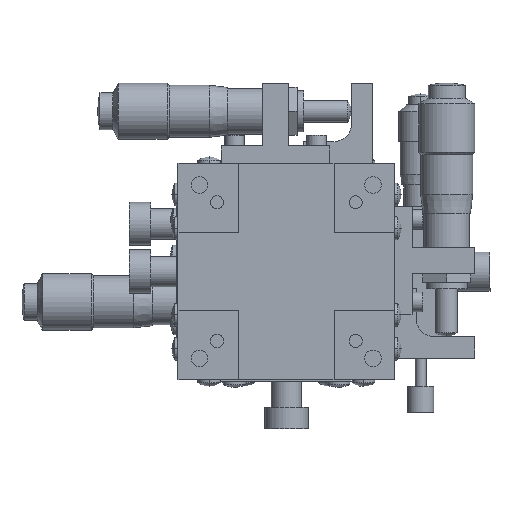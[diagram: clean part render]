
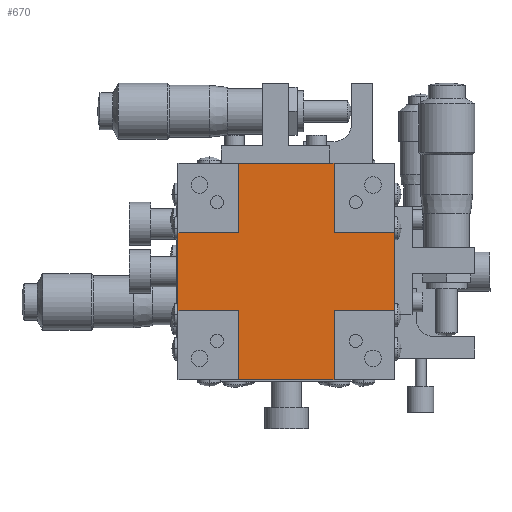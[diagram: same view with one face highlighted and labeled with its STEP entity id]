
A CAD part, front view. The second image highlights one B-rep face of the part: STEP entity #670.
In plain terms, the highlighted planar face has unit normal (0, -1, 0).
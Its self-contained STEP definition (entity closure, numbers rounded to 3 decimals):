
#670 = ADVANCED_FACE ( 'NONE', ( #12031 ), #12032, .T. ) ;
#1960 = EDGE_LOOP ( 'NONE', ( #2686, #2687, #2688, #2689, #2690, #2691, #2692, #2693, #2694, #2695, #2696, #2697 ) ) ;
#2686 = ORIENTED_EDGE ( 'NONE', *, *, #3613, .T. ) ;
#2687 = ORIENTED_EDGE ( 'NONE', *, *, #3624, .T. ) ;
#2688 = ORIENTED_EDGE ( 'NONE', *, *, #3625, .F. ) ;
#2689 = ORIENTED_EDGE ( 'NONE', *, *, #3626, .T. ) ;
#2690 = ORIENTED_EDGE ( 'NONE', *, *, #3627, .T. ) ;
#2691 = ORIENTED_EDGE ( 'NONE', *, *, #3628, .F. ) ;
#2692 = ORIENTED_EDGE ( 'NONE', *, *, #3629, .T. ) ;
#2693 = ORIENTED_EDGE ( 'NONE', *, *, #3630, .T. ) ;
#2694 = ORIENTED_EDGE ( 'NONE', *, *, #3631, .F. ) ;
#2695 = ORIENTED_EDGE ( 'NONE', *, *, #3632, .T. ) ;
#2696 = ORIENTED_EDGE ( 'NONE', *, *, #3633, .T. ) ;
#2697 = ORIENTED_EDGE ( 'NONE', *, *, #3634, .F. ) ;
#3613 = EDGE_CURVE ( 'NONE', #24292, #24067, #13884, .T. ) ;
#3624 = EDGE_CURVE ( 'NONE', #24067, #24184, #13940, .T. ) ;
#3625 = EDGE_CURVE ( 'NONE', #24069, #24184, #13962, .T. ) ;
#3626 = EDGE_CURVE ( 'NONE', #24069, #24053, #13952, .T. ) ;
#3627 = EDGE_CURVE ( 'NONE', #24053, #24127, #13974, .T. ) ;
#3628 = EDGE_CURVE ( 'NONE', #24142, #24127, #13980, .T. ) ;
#3629 = EDGE_CURVE ( 'NONE', #24142, #24031, #13950, .T. ) ;
#3630 = EDGE_CURVE ( 'NONE', #24031, #24136, #13993, .T. ) ;
#3631 = EDGE_CURVE ( 'NONE', #24161, #24136, #13999, .T. ) ;
#3632 = EDGE_CURVE ( 'NONE', #24161, #24256, #13964, .T. ) ;
#3633 = EDGE_CURVE ( 'NONE', #24256, #24050, #14012, .T. ) ;
#3634 = EDGE_CURVE ( 'NONE', #24292, #24050, #14019, .T. ) ;
#10822 = AXIS2_PLACEMENT_3D ( 'NONE', #12028, #12035, #12036 ) ;
#11073 = VECTOR ( 'NONE', #13889, 1000. ) ;
#11081 = VECTOR ( 'NONE', #13973, 1000. ) ;
#11085 = VECTOR ( 'NONE', #13960, 1000. ) ;
#11087 = VECTOR ( 'NONE', #13967, 1000. ) ;
#11088 = VECTOR ( 'NONE', #13991, 1000. ) ;
#11089 = VECTOR ( 'NONE', #13979, 1000. ) ;
#11090 = VECTOR ( 'NONE', #13986, 1000. ) ;
#11091 = VECTOR ( 'NONE', #14010, 1000. ) ;
#11092 = VECTOR ( 'NONE', #13997, 1000. ) ;
#11093 = VECTOR ( 'NONE', #14005, 1000. ) ;
#11095 = VECTOR ( 'NONE', #14017, 1000. ) ;
#11096 = VECTOR ( 'NONE', #14024, 1000. ) ;
#12028 = CARTESIAN_POINT ( 'NONE',  ( 0., -6.5, -80.141 ) ) ;
#12031 = FACE_OUTER_BOUND ( 'NONE', #1960, .T. ) ;
#12032 = PLANE ( 'NONE',  #10822 ) ;
#12035 = DIRECTION ( 'NONE',  ( 0., -1., 0. ) ) ;
#12036 = DIRECTION ( 'NONE',  ( 0., 0., -1. ) ) ;
#13884 = LINE ( 'NONE', #13887, #11073 ) ;
#13887 = CARTESIAN_POINT ( 'NONE',  ( 0., -6.5, 0. ) ) ;
#13889 = DIRECTION ( 'NONE',  ( -1., 0., 0. ) ) ;
#13940 = LINE ( 'NONE', #13942, #11085 ) ;
#13942 = CARTESIAN_POINT ( 'NONE',  ( -11., -6.5, -80.141 ) ) ;
#13950 = LINE ( 'NONE', #13988, #11088 ) ;
#13952 = LINE ( 'NONE', #13969, #11081 ) ;
#13960 = DIRECTION ( 'NONE',  ( 0., 0., -1. ) ) ;
#13962 = LINE ( 'NONE', #13965, #11087 ) ;
#13964 = LINE ( 'NONE', #14007, #11091 ) ;
#13965 = CARTESIAN_POINT ( 'NONE',  ( 0., -6.5, -16. ) ) ;
#13967 = DIRECTION ( 'NONE',  ( 1., 0., 0. ) ) ;
#13969 = CARTESIAN_POINT ( 'NONE',  ( -25., -6.5, -80.141 ) ) ;
#13973 = DIRECTION ( 'NONE',  ( 0., 0., -1. ) ) ;
#13974 = LINE ( 'NONE', #13977, #11089 ) ;
#13977 = CARTESIAN_POINT ( 'NONE',  ( 0., -6.5, -34. ) ) ;
#13979 = DIRECTION ( 'NONE',  ( 1., 0., 0. ) ) ;
#13980 = LINE ( 'NONE', #13984, #11090 ) ;
#13984 = CARTESIAN_POINT ( 'NONE',  ( -11., -6.5, -80.141 ) ) ;
#13986 = DIRECTION ( 'NONE',  ( 0., 0., 1. ) ) ;
#13988 = CARTESIAN_POINT ( 'NONE',  ( 0., -6.5, -50. ) ) ;
#13991 = DIRECTION ( 'NONE',  ( 1., 0., 0. ) ) ;
#13993 = LINE ( 'NONE', #13995, #11092 ) ;
#13995 = CARTESIAN_POINT ( 'NONE',  ( 11., -6.5, -80.141 ) ) ;
#13997 = DIRECTION ( 'NONE',  ( 0., 0., 1. ) ) ;
#13999 = LINE ( 'NONE', #14003, #11093 ) ;
#14003 = CARTESIAN_POINT ( 'NONE',  ( 0., -6.5, -34. ) ) ;
#14005 = DIRECTION ( 'NONE',  ( -1., 0., 0. ) ) ;
#14007 = CARTESIAN_POINT ( 'NONE',  ( 25., -6.5, -80.141 ) ) ;
#14010 = DIRECTION ( 'NONE',  ( 0., 0., 1. ) ) ;
#14012 = LINE ( 'NONE', #14015, #11095 ) ;
#14015 = CARTESIAN_POINT ( 'NONE',  ( 0., -6.5, -16. ) ) ;
#14017 = DIRECTION ( 'NONE',  ( -1., 0., 0. ) ) ;
#14019 = LINE ( 'NONE', #14022, #11096 ) ;
#14022 = CARTESIAN_POINT ( 'NONE',  ( 11., -6.5, -80.141 ) ) ;
#14024 = DIRECTION ( 'NONE',  ( 0., 0., -1. ) ) ;
#24031 = VERTEX_POINT ( 'NONE', #25799 ) ;
#24050 = VERTEX_POINT ( 'NONE', #25809 ) ;
#24053 = VERTEX_POINT ( 'NONE', #25811 ) ;
#24067 = VERTEX_POINT ( 'NONE', #25819 ) ;
#24069 = VERTEX_POINT ( 'NONE', #25821 ) ;
#24127 = VERTEX_POINT ( 'NONE', #25856 ) ;
#24136 = VERTEX_POINT ( 'NONE', #25862 ) ;
#24142 = VERTEX_POINT ( 'NONE', #25866 ) ;
#24161 = VERTEX_POINT ( 'NONE', #25878 ) ;
#24184 = VERTEX_POINT ( 'NONE', #25892 ) ;
#24256 = VERTEX_POINT ( 'NONE', #25935 ) ;
#24292 = VERTEX_POINT ( 'NONE', #25957 ) ;
#25799 = CARTESIAN_POINT ( 'NONE',  ( 11., -6.5, -50. ) ) ;
#25809 = CARTESIAN_POINT ( 'NONE',  ( 11., -6.5, -16. ) ) ;
#25811 = CARTESIAN_POINT ( 'NONE',  ( -25., -6.5, -34. ) ) ;
#25819 = CARTESIAN_POINT ( 'NONE',  ( -11., -6.5, 0. ) ) ;
#25821 = CARTESIAN_POINT ( 'NONE',  ( -25., -6.5, -16. ) ) ;
#25856 = CARTESIAN_POINT ( 'NONE',  ( -11., -6.5, -34. ) ) ;
#25862 = CARTESIAN_POINT ( 'NONE',  ( 11., -6.5, -34. ) ) ;
#25866 = CARTESIAN_POINT ( 'NONE',  ( -11., -6.5, -50. ) ) ;
#25878 = CARTESIAN_POINT ( 'NONE',  ( 25., -6.5, -34. ) ) ;
#25892 = CARTESIAN_POINT ( 'NONE',  ( -11., -6.5, -16. ) ) ;
#25935 = CARTESIAN_POINT ( 'NONE',  ( 25., -6.5, -16. ) ) ;
#25957 = CARTESIAN_POINT ( 'NONE',  ( 11., -6.5, 0. ) ) ;
